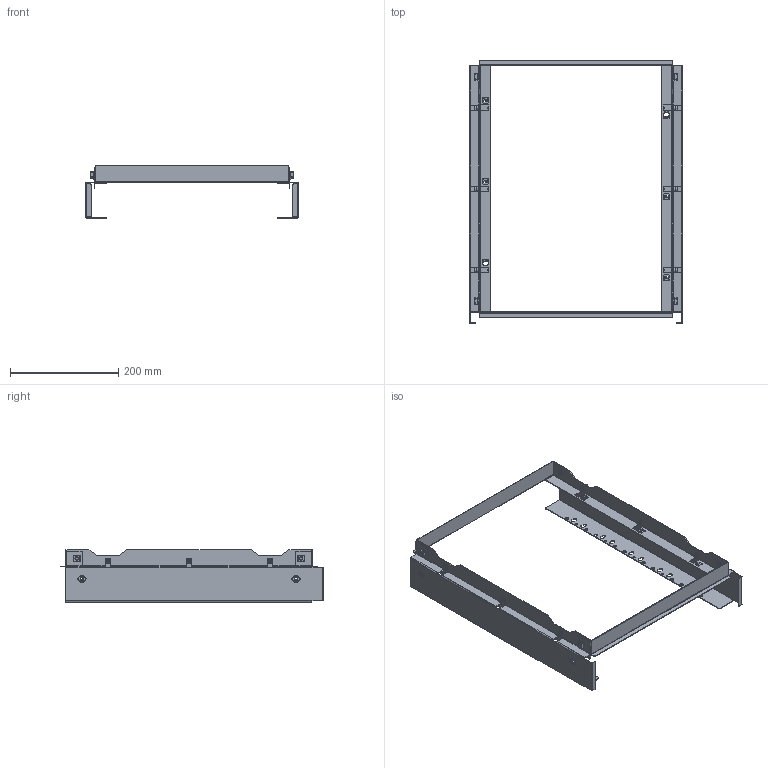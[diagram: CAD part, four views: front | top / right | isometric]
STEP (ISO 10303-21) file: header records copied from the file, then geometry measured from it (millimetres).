
FILE_DESCRIPTION (( 'STEP AP203' ), '1' );
FILE_NAME ('R5STMF54.STEP', '2022-04-13T09:37:02', ( '' ), ( '' ), 'SwSTEP 2.0', 'SolidWorks 2020', '' );
FILE_SCHEMA (( 'CONFIG_CONTROL_DESIGN' ));
Length unit declared in the file: millimetre
Products named in the file (11): RB.2136.00.00.0_-01; M6x12 DIN 965 PH cl.4,8 Zinc_stright; RB.2135.00.00.0 捘_-01; M4 MGR-MKO-0420_straight; RB.2134.00.00.0_-01; M6 A3400002 Zinc_straight; M4x8 DIN 965 PH cl.4,8 Zinc_straight; RB.2135.00.01.0_-01; M6 DIN 6923 cl.8,0 Zinc_straight; RB.2134.00.00.0_-09; R5STMF54
Assembly tree (28 placements, depth 3):
  R5STMF54
    RB.2134.00.00.0_-01
    RB.2135.00.00.0 捘_-01  x2
      RB.2135.00.01.0_-01
      M4 MGR-MKO-0420_straight
    RB.2136.00.00.0_-01  x2
    RB.2134.00.00.0_-09
    M6 A3400002 Zinc_straight  x4
    M6x12 DIN 965 PH cl.4,8 Zinc_stright  x4
    M4x8 DIN 965 PH cl.4,8 Zinc_straight  x6
    M6 DIN 6923 cl.8,0 Zinc_straight  x4
Bounding box: 393.6 x 486.4 x 96.67 mm (x, y, z)
Volume: 297639.5 mm3; surface area: 411921.3 mm2
Topology: 30 solids, 30 shells, 1796 faces, 4694 edges, 2930 vertices
Faces by surface type: plane 912, cylinder 628, cone 188, bspline 40, torus 28
Entity records: 27205 total; most frequent: CARTESIAN_POINT 5019, DIRECTION 4346, ORIENTED_EDGE 4260, EDGE_CURVE 2130, AXIS2_PLACEMENT_3D 1509, VERTEX_POINT 1336, LINE 1328, VECTOR 1328
